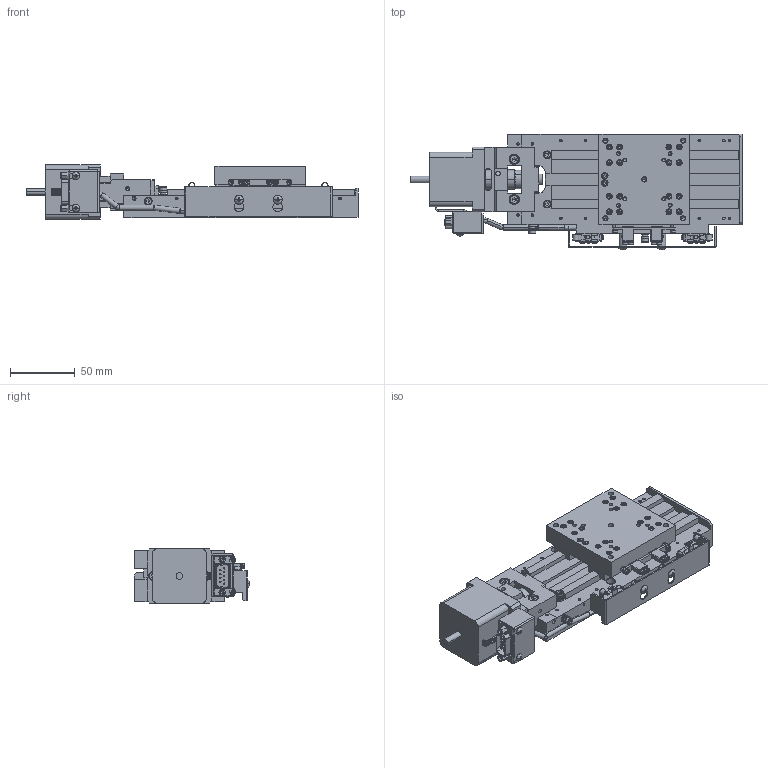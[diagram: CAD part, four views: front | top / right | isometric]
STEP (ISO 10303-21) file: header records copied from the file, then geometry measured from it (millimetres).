
FILE_DESCRIPTION( (''), '2;1');
FILE_NAME ('MVXA07A-L202.stp','2022-04-01T11:21:35',(''),(''),'spGate 17.5.5','','');
FILE_SCHEMA (('AUTOMOTIVE_DESIGN'));
Length unit declared in the file: millimetre
Products named in the file (3): Assembly; MVXA07A-L202-prt0; MVXA07A-L202-prt1
Assembly tree (2 placements, depth 2):
  Assembly
    MVXA07A-L202-prt0
    MVXA07A-L202-prt1
Bounding box: 256.5 x 89.39 x 42 mm (x, y, z)
Volume: 416718.8 mm3; surface area: 105236.6 mm2
Topology: 2 solids, 4 shells, 2676 faces, 6432 edges, 3852 vertices
Faces by surface type: plane 1430, cylinder 722, bspline 470, sphere 54
Entity records: 131285 total; most frequent: CARTESIAN_POINT 20943, ORIENTED_EDGE 12508, DIRECTION 11772, COLOUR_RGB 8932, PRESENTATION_STYLE_ASSIGNMENT 8932, STYLED_ITEM 8932, EDGE_CURVE 6254, DRAUGHTING_PRE_DEFINED_CURVE_FONT 6254
